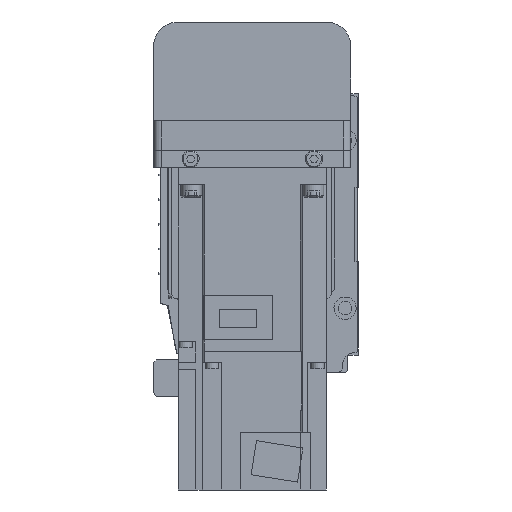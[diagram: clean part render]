
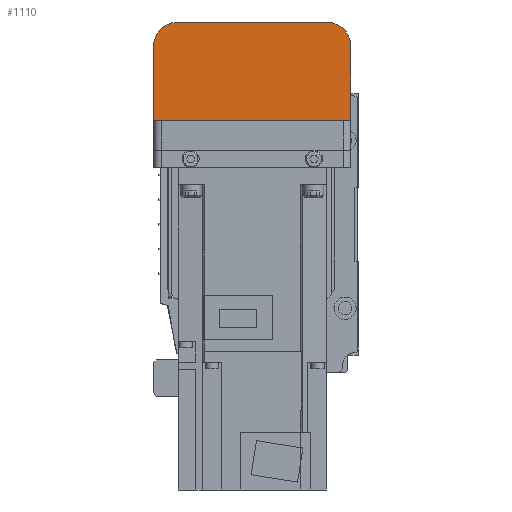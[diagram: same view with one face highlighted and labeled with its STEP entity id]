
A CAD part, left-side view. The second image highlights one B-rep face of the part: STEP entity #1110.
In plain terms, the highlighted planar face has unit normal (-1, 0, 0).
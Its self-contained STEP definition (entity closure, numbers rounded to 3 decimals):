
#1110 = ADVANCED_FACE( '', ( #2797 ), #2798, .F. );
#2797 = FACE_OUTER_BOUND( '', #5261, .T. );
#2798 = PLANE( '', #5262 );
#5261 = EDGE_LOOP( '', ( #8303, #8304, #8305, #8306, #8307, #8308 ) );
#5262 = AXIS2_PLACEMENT_3D( '', #8309, #8310, #8311 );
#8303 = ORIENTED_EDGE( '', *, *, #14460, .F. );
#8304 = ORIENTED_EDGE( '', *, *, #14461, .F. );
#8305 = ORIENTED_EDGE( '', *, *, #14462, .F. );
#8306 = ORIENTED_EDGE( '', *, *, #14463, .F. );
#8307 = ORIENTED_EDGE( '', *, *, #14464, .F. );
#8308 = ORIENTED_EDGE( '', *, *, #14465, .F. );
#8309 = CARTESIAN_POINT( '', ( -192., 37., 7. ) );
#8310 = DIRECTION( '', ( 1., 0., 0. ) );
#8311 = DIRECTION( '', ( 0., 0., -1. ) );
#14460 = EDGE_CURVE( '', #17424, #17425, #17426, .T. );
#14461 = EDGE_CURVE( '', #17427, #17424, #17428, .T. );
#14462 = EDGE_CURVE( '', #17429, #17427, #17430, .T. );
#14463 = EDGE_CURVE( '', #17431, #17429, #17432, .T. );
#14464 = EDGE_CURVE( '', #17433, #17431, #17434, .T. );
#14465 = EDGE_CURVE( '', #17425, #17433, #17435, .T. );
#17424 = VERTEX_POINT( '', #21460 );
#17425 = VERTEX_POINT( '', #21461 );
#17426 = LINE( '', #21462, #21463 );
#17427 = VERTEX_POINT( '', #21464 );
#17428 = LINE( '', #21465, #21466 );
#17429 = VERTEX_POINT( '', #21467 );
#17430 = CIRCLE( '', #21468, 10. );
#17431 = VERTEX_POINT( '', #21469 );
#17432 = LINE( '', #21470, #21471 );
#17433 = VERTEX_POINT( '', #21472 );
#17434 = CIRCLE( '', #21473, 10. );
#17435 = LINE( '', #21474, #21475 );
#21460 = CARTESIAN_POINT( '', ( -192., 40., -12.1 ) );
#21461 = CARTESIAN_POINT( '', ( -192., -40., -12.1 ) );
#21462 = CARTESIAN_POINT( '', ( -192., 50., -12.1 ) );
#21463 = VECTOR( '', #25880, 1000. );
#21464 = CARTESIAN_POINT( '', ( -192., 40., -42. ) );
#21465 = CARTESIAN_POINT( '', ( -192., 40., -42. ) );
#21466 = VECTOR( '', #25881, 1000. );
#21467 = CARTESIAN_POINT( '', ( -192., 30., -52. ) );
#21468 = AXIS2_PLACEMENT_3D( '', #25882, #25883, #25884 );
#21469 = CARTESIAN_POINT( '', ( -192., -30., -52. ) );
#21470 = CARTESIAN_POINT( '', ( -192., -30., -52. ) );
#21471 = VECTOR( '', #25885, 1000. );
#21472 = CARTESIAN_POINT( '', ( -192., -40., -42. ) );
#21473 = AXIS2_PLACEMENT_3D( '', #25886, #25887, #25888 );
#21474 = CARTESIAN_POINT( '', ( -192., -40., -12.1 ) );
#21475 = VECTOR( '', #25889, 1000. );
#25880 = DIRECTION( '', ( 0., -1., 0. ) );
#25881 = DIRECTION( '', ( 0., 0., 1. ) );
#25882 = CARTESIAN_POINT( '', ( -192., 30., -42. ) );
#25883 = DIRECTION( '', ( 1., 0., 0. ) );
#25884 = DIRECTION( '', ( 0., 0., -1. ) );
#25885 = DIRECTION( '', ( 0., 1., 0. ) );
#25886 = CARTESIAN_POINT( '', ( -192., -30., -42. ) );
#25887 = DIRECTION( '', ( 1., 0., 0. ) );
#25888 = DIRECTION( '', ( 0., 0., -1. ) );
#25889 = DIRECTION( '', ( 0., 0., -1. ) );
